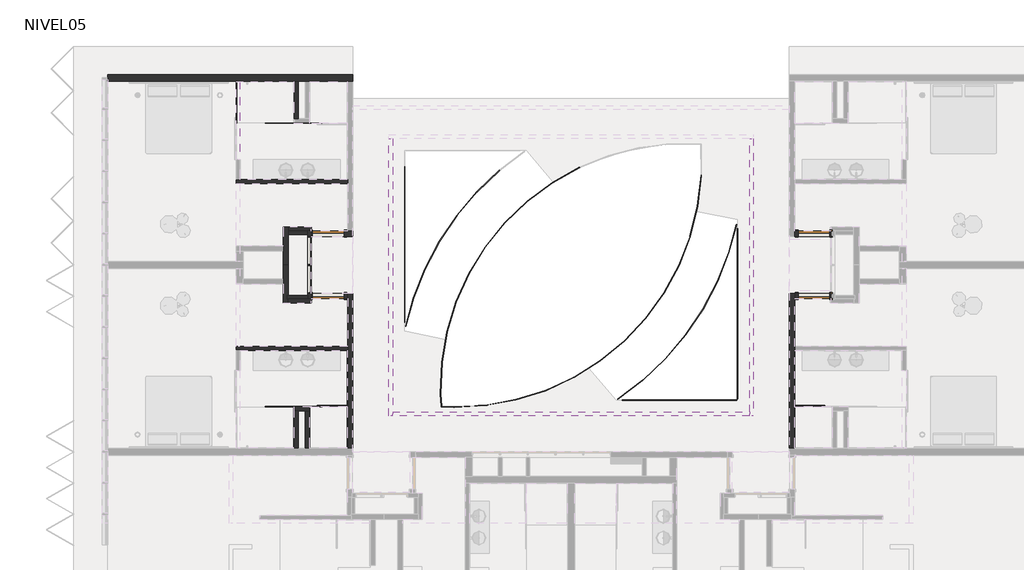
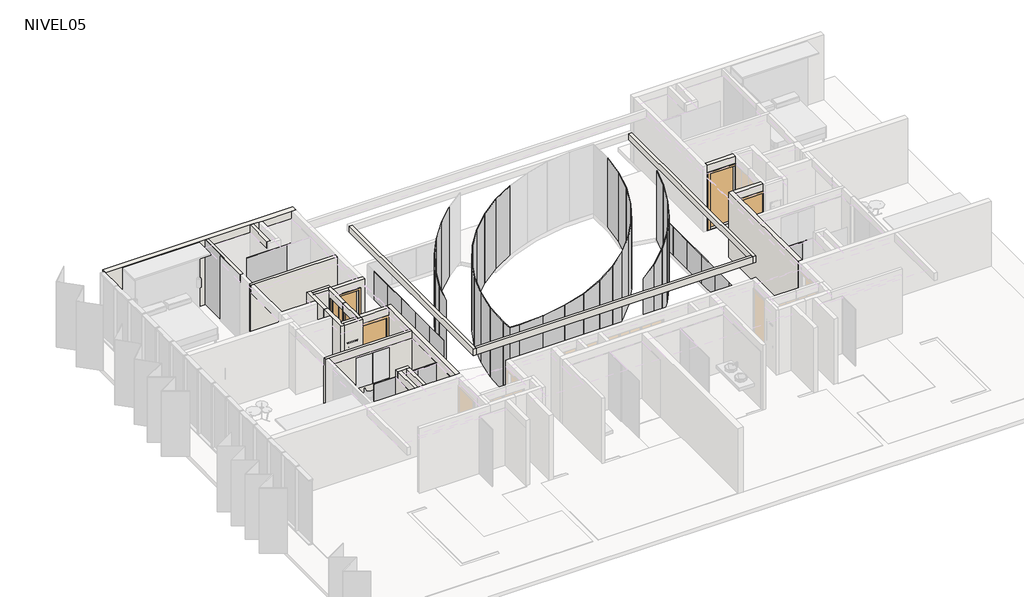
# One storey, part 5 of 8: 56 plates, 31 walls, 6 doors.
"""IFC4 building model written with IfcOpenShell, lengths in millimetres."""

from ifc_helpers import new_model, si_unit, frame, origin, place, context, project, spatial, polyline, outline, extrude, faceted_brep, transform, mapped, element, save
from components import m_single_flush_910x_224_a4f79d59, m_single_flush_910x_224_d199ccfa, puerta_closet_shaft_82_5_x_224cm_10222c01, puerta_closet_shaft_82_5_x_224cm_6ba6ac82, panel_corredera_cr_panel_corredera_1cb9417a, panel_corredera_cr_panel_corredera_99e605cf, system_panel_5ccbd7a3, system_panel_34dc83f9, system_panel_bb99d6db, system_panel_d16f8cfc, system_panel_5bddcc3b, system_panel_8f9a12f6, system_panel_c363a63a, system_panel_ba3bad07, system_panel_cr_shower_c0953742, system_panel_cr_shower_402713e2, system_panel_cr_shower_685ec66b

model = new_model("IFC4")

# Units and contexts
model_context = context("Model", 3, world=origin())
ifc_project = project(units=[si_unit("LENGTHUNIT", "METRE", prefix="MILLI")], contexts=[model_context])

# Site, building, storey
site = spatial("IfcSite", under=ifc_project)
building = spatial("IfcBuilding", under=site)
storey = spatial("IfcBuildingStorey", under=building, Name="NIVEL05", Elevation=10660.0)

# Doors
placement = place(None, origin())
m_single_flush_910x_224_shape = m_single_flush_910x_224_a4f79d59(model_context)
element("IfcDoor", 1, ObjectType="M_Single-Flush : 910x 224", at=placement, inside=storey, context=model_context, shape_type="MappedRepresentation", body=[
    mapped(m_single_flush_910x_224_shape, transform((-14191.0934748, 6033.9139241, 10660.0), x_axis=(1.0, 0.0, 0.0), y_axis=(0.0, 1.0, 0.0), z_axis=(0.0, 0.0, 1.0))),
])
element("IfcDoor", 2, ObjectType="M_Single-Flush : 910x 224", at=placement, inside=storey, context=model_context, shape_type="MappedRepresentation", body=[
    mapped(m_single_flush_910x_224_shape, transform((-176.0934748, 4233.9139241, 10660.0), x_axis=(-1.0, 0.0, 0.0), y_axis=(0.0, -1.0, 0.0), z_axis=(0.0, 0.0, 1.0))),
])
m_single_flush_910x_224_2_shape = m_single_flush_910x_224_d199ccfa(model_context)
element("IfcDoor", 3, ObjectType="M_Single-Flush : 910x 224", at=placement, inside=storey, context=model_context, shape_type="MappedRepresentation", body=[
    mapped(m_single_flush_910x_224_2_shape, transform((-176.0934748, 6033.9139241, 10660.0), x_axis=(-1.0, 0.0, 0.0), y_axis=(0.0, -1.0, 0.0), z_axis=(0.0, 0.0, 1.0))),
])
element("IfcDoor", 4, ObjectType="M_Single-Flush : 910x 224", at=placement, inside=storey, context=model_context, shape_type="MappedRepresentation", body=[
    mapped(m_single_flush_910x_224_2_shape, transform((-14191.0934748, 4233.9139241, 10660.0), x_axis=(1.0, 0.0, 0.0), y_axis=(0.0, 1.0, 0.0), z_axis=(0.0, 0.0, 1.0))),
])
puerta_closet_shaft_82_5_x_224cm_shape = puerta_closet_shaft_82_5_x_224cm_10222c01(model_context)
element("IfcDoor", 5, ObjectType="PUERTA CLOSET SHAFT : 82.5 x 224cm", at=placement, inside=storey, context=model_context, shape_type="MappedRepresentation", body=[
    mapped(puerta_closet_shaft_82_5_x_224cm_shape, transform((-14728.5934748, 4404.8823532, 10660.0), x_axis=(0.0, -1.0, 0.0), y_axis=(1.0, 0.0, 0.0), z_axis=(0.0, 0.0, 1.0))),
])
puerta_closet_shaft_82_5_x_224cm_2_shape = puerta_closet_shaft_82_5_x_224cm_6ba6ac82(model_context)
element("IfcDoor", 6, ObjectType="PUERTA CLOSET SHAFT : 82.5 x 224cm", at=placement, inside=storey, context=model_context, shape_type="MappedRepresentation", body=[
    mapped(puerta_closet_shaft_82_5_x_224cm_2_shape, transform((-14728.5934748, 5862.9454949, 10660.0), x_axis=(0.0, 1.0, 0.0), y_axis=(-1.0, 0.0, 0.0), z_axis=(0.0, 0.0, 1.0))),
])

# Plates
panel_corredera_cr_panel_corredera_shape = panel_corredera_cr_panel_corredera_1cb9417a(model_context)
element("IfcPlate", 7, ObjectType="PANEL CORREDERA : CR_PANEL CORREDERA", at=placement, inside=storey, context=model_context, shape_type="MappedRepresentation", body=[
    mapped(panel_corredera_cr_panel_corredera_shape, transform((-13994.9268082, 1033.9139241, 10660.0), x_axis=(-1.0, 0.0, 0.0), y_axis=(0.0, -1.0, 0.0), z_axis=(0.0, 0.0, 1.0))),
])
panel_corredera_cr_panel_corredera_2_shape = panel_corredera_cr_panel_corredera_99e605cf(model_context)
element("IfcPlate", 8, ObjectType="PANEL CORREDERA : CR_PANEL CORREDERA", at=placement, inside=storey, context=model_context, shape_type="MappedRepresentation", body=[
    mapped(panel_corredera_cr_panel_corredera_2_shape, transform((-372.2601415, 1033.9139241, 10660.0), x_axis=(1.0, 0.0, 0.0), y_axis=(0.0, 1.0, 0.0), z_axis=(0.0, 0.0, 1.0))),
])
system_panel_shape = system_panel_5ccbd7a3(model_context)
element("IfcPlate", 9, ObjectType="System Panel : CR-BARANDA", at=placement, inside=storey, context=model_context, shape_type="MappedRepresentation", body=[
    mapped(system_panel_shape, transform((-2383.5934748, 5738.757085, 10660.0), x_axis=(0.0, -1.0, 0.0), y_axis=(1.0, 0.0, 0.0), z_axis=(0.0, 0.0, 1.0))),
])
element("IfcPlate", 10, ObjectType="System Panel : CR-BARANDA", at=placement, inside=storey, context=model_context, shape_type="MappedRepresentation", body=[
    mapped(system_panel_shape, transform((-2859.843475, 1233.9139241, 10660.0), x_axis=(-1.0, 0.0, 0.0), y_axis=(0.0, -1.0, 0.0), z_axis=(0.0, 0.0, 1.0))),
])
element("IfcPlate", 11, ObjectType="System Panel : CR-BARANDA", at=placement, inside=storey, context=model_context, shape_type="MappedRepresentation", body=[
    mapped(system_panel_shape, transform((-11983.5934748, 3929.0707631, 10660.0), x_axis=(0.0, 1.0, 0.0), y_axis=(-1.0, 0.0, 0.0), z_axis=(0.0, 0.0, 1.0))),
])
element("IfcPlate", 12, ObjectType="System Panel : CR-BARANDA", at=placement, inside=storey, context=model_context, shape_type="MappedRepresentation", body=[
    mapped(system_panel_shape, transform((-3759.8434752, 1233.9139241, 10660.0), x_axis=(-1.0, 0.0, 0.0), y_axis=(0.0, -1.0, 0.0), z_axis=(0.0, 0.0, 1.0))),
])
element("IfcPlate", 13, ObjectType="System Panel : CR-BARANDA", at=placement, inside=storey, context=model_context, shape_type="MappedRepresentation", body=[
    mapped(system_panel_shape, transform((-4659.8434752, 1233.9139241, 10660.0), x_axis=(-1.0, 0.0, 0.0), y_axis=(0.0, -1.0, 0.0), z_axis=(0.0, 0.0, 1.0))),
])
element("IfcPlate", 14, ObjectType="System Panel : CR-BARANDA", at=placement, inside=storey, context=model_context, shape_type="MappedRepresentation", body=[
    mapped(system_panel_shape, transform((-2383.5934748, 4838.7570848, 10660.0), x_axis=(0.0, -1.0, 0.0), y_axis=(1.0, 0.0, 0.0), z_axis=(0.0, 0.0, 1.0))),
])
element("IfcPlate", 15, ObjectType="System Panel : CR-BARANDA", at=placement, inside=storey, context=model_context, shape_type="MappedRepresentation", body=[
    mapped(system_panel_shape, transform((-2383.5934748, 3938.7570848, 10660.0), x_axis=(0.0, -1.0, 0.0), y_axis=(1.0, 0.0, 0.0), z_axis=(0.0, 0.0, 1.0))),
])
element("IfcPlate", 16, ObjectType="System Panel : CR-BARANDA", at=placement, inside=storey, context=model_context, shape_type="MappedRepresentation", body=[
    mapped(system_panel_shape, transform((-2383.5934748, 3038.7570848, 10660.0), x_axis=(0.0, -1.0, 0.0), y_axis=(1.0, 0.0, 0.0), z_axis=(0.0, 0.0, 1.0))),
])
element("IfcPlate", 17, ObjectType="System Panel : CR-BARANDA", at=placement, inside=storey, context=model_context, shape_type="MappedRepresentation", body=[
    mapped(system_panel_shape, transform((-2383.5934748, 2138.7570848, 10660.0), x_axis=(0.0, -1.0, 0.0), y_axis=(1.0, 0.0, 0.0), z_axis=(0.0, 0.0, 1.0))),
])
element("IfcPlate", 18, ObjectType="System Panel : CR-BARANDA", at=placement, inside=storey, context=model_context, shape_type="MappedRepresentation", body=[
    mapped(system_panel_shape, transform((-11983.5934748, 4829.0707633, 10660.0), x_axis=(0.0, 1.0, 0.0), y_axis=(-1.0, 0.0, 0.0), z_axis=(0.0, 0.0, 1.0))),
])
element("IfcPlate", 19, ObjectType="System Panel : CR-BARANDA", at=placement, inside=storey, context=model_context, shape_type="MappedRepresentation", body=[
    mapped(system_panel_shape, transform((-11983.5934748, 5729.0707633, 10660.0), x_axis=(0.0, 1.0, 0.0), y_axis=(-1.0, 0.0, 0.0), z_axis=(0.0, 0.0, 1.0))),
])
element("IfcPlate", 20, ObjectType="System Panel : CR-BARANDA", at=placement, inside=storey, context=model_context, shape_type="MappedRepresentation", body=[
    mapped(system_panel_shape, transform((-11983.5934748, 6629.0707633, 10660.0), x_axis=(0.0, 1.0, 0.0), y_axis=(-1.0, 0.0, 0.0), z_axis=(0.0, 0.0, 1.0))),
])
element("IfcPlate", 21, ObjectType="System Panel : CR-BARANDA", at=placement, inside=storey, context=model_context, shape_type="MappedRepresentation", body=[
    mapped(system_panel_shape, transform((-11983.5934748, 7529.0707633, 10660.0), x_axis=(0.0, 1.0, 0.0), y_axis=(-1.0, 0.0, 0.0), z_axis=(0.0, 0.0, 1.0))),
])
system_panel_2_shape = system_panel_34dc83f9(model_context)
element("IfcPlate", 22, ObjectType="System Panel : CR-BARANDA", at=placement, inside=storey, context=model_context, shape_type="MappedRepresentation", body=[
    mapped(system_panel_2_shape, transform((-5412.343475, 1233.9139241, 10660.0), x_axis=(-1.0, 0.0, 0.0), y_axis=(0.0, -1.0, 0.0), z_axis=(0.0, 0.0, 1.0))),
])
system_panel_3_shape = system_panel_bb99d6db(model_context)
element("IfcPlate", 23, ObjectType="System Panel : CR-BARANDA", at=placement, inside=storey, context=model_context, shape_type="MappedRepresentation", body=[
    mapped(system_panel_3_shape, transform((-2383.5934748, 1478.757085, 10660.0), x_axis=(0.0, -1.0, 0.0), y_axis=(1.0, 0.0, 0.0), z_axis=(0.0, 0.0, 1.0))),
])
system_panel_4_shape = system_panel_d16f8cfc(model_context)
element("IfcPlate", 24, ObjectType="System Panel : CR-BARANDA", at=placement, inside=storey, context=model_context, shape_type="MappedRepresentation", body=[
    mapped(system_panel_4_shape, transform((-7331.2063026, 7728.1154532, 10660.0), x_axis=(-0.8730074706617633, -0.4877068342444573, 0.0), y_axis=(0.4877068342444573, -0.8730074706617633, 0.0), z_axis=(0.0, 0.0, 1.0))),
])
element("IfcPlate", 25, ObjectType="System Panel : CR-BARANDA", at=placement, inside=storey, context=model_context, shape_type="MappedRepresentation", body=[
    mapped(system_panel_4_shape, transform((-8085.741745, 7240.9048287, 10660.0), x_axis=(-0.8037379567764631, -0.5949834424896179, 0.0), y_axis=(0.5949834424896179, -0.8037379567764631, 0.0), z_axis=(0.0, 0.0, 1.0))),
])
element("IfcPlate", 26, ObjectType="System Panel : CR-BARANDA", at=placement, inside=storey, context=model_context, shape_type="MappedRepresentation", body=[
    mapped(system_panel_4_shape, transform((-8772.0368429, 6661.5112103, 10660.0), x_axis=(-0.7213622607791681, -0.6925579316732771, 0.0), y_axis=(0.6925579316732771, -0.7213622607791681, 0.0), z_axis=(0.0, 0.0, 1.0))),
])
element("IfcPlate", 27, ObjectType="System Panel : CR-BARANDA", at=placement, inside=storey, context=model_context, shape_type="MappedRepresentation", body=[
    mapped(system_panel_4_shape, transform((-9378.9005004, 5999.3825011, 10660.0), x_axis=(-0.6272236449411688, -0.7788391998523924, 0.0), y_axis=(0.7788391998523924, -0.6272236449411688, 0.0), z_axis=(0.0, 0.0, 1.0))),
])
element("IfcPlate", 28, ObjectType="System Panel : CR-BARANDA", at=placement, inside=storey, context=model_context, shape_type="MappedRepresentation", body=[
    mapped(system_panel_4_shape, transform((-9896.4368735, 5265.3157269, 10660.0), x_axis=(-0.5228571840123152, -0.8524202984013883, 0.0), y_axis=(0.8524202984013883, -0.5228571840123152, 0.0), z_axis=(0.0, 0.0, 1.0))),
])
element("IfcPlate", 29, ObjectType="System Panel : CR-BARANDA", at=placement, inside=storey, context=model_context, shape_type="MappedRepresentation", body=[
    mapped(system_panel_4_shape, transform((-10316.2067363, 4471.2809741, 10660.0), x_axis=(-0.40996473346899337, -0.9121013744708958, 0.0), y_axis=(0.9121013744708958, -0.40996473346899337, 0.0), z_axis=(0.0, 0.0, 1.0))),
])
element("IfcPlate", 30, ObjectType="System Panel : CR-BARANDA", at=placement, inside=storey, context=model_context, shape_type="MappedRepresentation", body=[
    mapped(system_panel_4_shape, transform((-10631.3650965, 3630.2261992, 10660.0), x_axis=(-0.2903871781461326, -0.9569092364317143, 0.0), y_axis=(0.9569092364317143, -0.2903871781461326, 0.0), z_axis=(0.0, 0.0, 1.0))),
])
element("IfcPlate", 31, ObjectType="System Panel : CR-BARANDA", at=placement, inside=storey, context=model_context, shape_type="MappedRepresentation", body=[
    mapped(system_panel_4_shape, transform((-10836.7728129, 2755.8660923, 10660.0), x_axis=(-0.16607441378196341, -0.9861132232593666, 0.0), y_axis=(0.9861132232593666, -0.16607441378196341, 0.0), z_axis=(0.0, 0.0, 1.0))),
])
element("IfcPlate", 32, ObjectType="System Panel : CR-BARANDA", at=placement, inside=storey, context=model_context, shape_type="MappedRepresentation", body=[
    mapped(system_panel_4_shape, transform((-10929.0803971, 1862.4584383, 10660.0), x_axis=(-0.03905355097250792, -0.9992371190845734, 0.0), y_axis=(0.9992371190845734, -0.03905355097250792, 0.0), z_axis=(0.0, 0.0, 1.0))),
])
system_panel_5_shape = system_panel_5bddcc3b(model_context)
element("IfcPlate", 33, ObjectType="System Panel : CR-BARANDA", at=placement, inside=storey, context=model_context, shape_type="MappedRepresentation", body=[
    mapped(system_panel_5_shape, transform((-10937.3624941, 1230.0346436, 10660.0), x_axis=(0.05077508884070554, -0.9987101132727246, 0.0), y_axis=(0.9987101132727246, 0.05077508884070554, 0.0), z_axis=(0.0, 0.0, 1.0))),
])
system_panel_6_shape = system_panel_8f9a12f6(model_context)
element("IfcPlate", 34, ObjectType="System Panel : CR-BARANDA", at=placement, inside=storey, context=model_context, shape_type="MappedRepresentation", body=[
    mapped(system_panel_6_shape, transform((-5476.4920391, 1528.1257546, 10660.0), x_axis=(0.7955573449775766, 0.6058782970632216, 0.0), y_axis=(-0.6058782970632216, 0.7955573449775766, 0.0), z_axis=(0.0, 0.0, 1.0))),
])
element("IfcPlate", 35, ObjectType="System Panel : CR-BARANDA", at=placement, inside=storey, context=model_context, shape_type="MappedRepresentation", body=[
    mapped(system_panel_4_shape, transform((-9573.0942482, 7558.7054405, 10660.0), x_axis=(-0.7250107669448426, -0.6887375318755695, 0.0), y_axis=(0.6887375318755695, -0.7250107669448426, 0.0), z_axis=(0.0, 0.0, 1.0))),
])
element("IfcPlate", 36, ObjectType="System Panel : CR-BARANDA", at=placement, inside=storey, context=model_context, shape_type="MappedRepresentation", body=[
    mapped(system_panel_4_shape, transform((-10189.892753, 6905.1394698, 10660.0), x_axis=(-0.6456525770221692, -0.7636312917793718, 0.0), y_axis=(0.7636312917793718, -0.6456525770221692, 0.0), z_axis=(0.0, 0.0, 1.0))),
])
element("IfcPlate", 37, ObjectType="System Panel : CR-BARANDA", at=placement, inside=storey, context=model_context, shape_type="MappedRepresentation", body=[
    mapped(system_panel_4_shape, transform((-10731.8094423, 6188.2606967, 10660.0), x_axis=(-0.558606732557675, -0.8294326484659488, 0.0), y_axis=(0.8294326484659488, -0.558606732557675, 0.0), z_axis=(0.0, 0.0, 1.0))),
])
element("IfcPlate", 38, ObjectType="System Panel : CR-BARANDA", at=placement, inside=storey, context=model_context, shape_type="MappedRepresentation", body=[
    mapped(system_panel_4_shape, transform((-11192.3918238, 5416.6048516, 10660.0), x_axis=(-0.4649096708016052, -0.8853581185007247, 0.0), y_axis=(0.8853581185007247, -0.4649096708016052, 0.0), z_axis=(0.0, 0.0, 1.0))),
])
element("IfcPlate", 39, ObjectType="System Panel : CR-BARANDA", at=placement, inside=storey, context=model_context, shape_type="MappedRepresentation", body=[
    mapped(system_panel_4_shape, transform((-11566.1558363, 4599.3598844, 10660.0), x_axis=(-0.36567702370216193, -0.9307418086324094, 0.0), y_axis=(0.9307418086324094, -0.36567702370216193, 0.0), z_axis=(0.0, 0.0, 1.0))),
])
element("IfcPlate", 40, ObjectType="System Panel : CR-BARANDA", at=placement, inside=storey, context=model_context, shape_type="MappedRepresentation", body=[
    mapped(system_panel_4_shape, transform((-3479.1267798, 7273.6025956, 10660.0), x_axis=(-0.11465787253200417, -0.9934050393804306, 0.0), y_axis=(0.9934050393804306, -0.11465787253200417, 0.0), z_axis=(0.0, 0.0, 1.0))),
])
element("IfcPlate", 41, ObjectType="System Panel : CR-BARANDA", at=placement, inside=storey, context=model_context, shape_type="MappedRepresentation", body=[
    mapped(system_panel_4_shape, transform((-3638.8664144, 6389.7580529, 10660.0), x_axis=(-0.2403190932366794, -0.9706939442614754, 0.0), y_axis=(0.9706939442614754, -0.2403190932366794, 0.0), z_axis=(0.0, 0.0, 1.0))),
])
element("IfcPlate", 42, ObjectType="System Panel : CR-BARANDA", at=placement, inside=storey, context=model_context, shape_type="MappedRepresentation", body=[
    mapped(system_panel_4_shape, transform((-3909.9377002, 5533.4763911, 10660.0), x_axis=(-0.3620615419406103, -0.9321541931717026, 0.0), y_axis=(0.9321541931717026, -0.3620615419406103, 0.0), z_axis=(0.0, 0.0, 1.0))),
])
element("IfcPlate", 43, ObjectType="System Panel : CR-BARANDA", at=placement, inside=storey, context=model_context, shape_type="MappedRepresentation", body=[
    mapped(system_panel_4_shape, transform((-4287.9204035, 4718.720598, 10660.0), x_axis=(-0.4779000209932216, -0.87841423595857, 0.0), y_axis=(0.87841423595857, -0.4779000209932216, 0.0), z_axis=(0.0, 0.0, 1.0))),
])
element("IfcPlate", 44, ObjectType="System Panel : CR-BARANDA", at=placement, inside=storey, context=model_context, shape_type="MappedRepresentation", body=[
    mapped(system_panel_4_shape, transform((-4766.6509357, 3958.7765185, 10660.0), x_axis=(-0.5859456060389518, -0.8103503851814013, 0.0), y_axis=(0.8103503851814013, -0.5859456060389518, 0.0), z_axis=(0.0, 0.0, 1.0))),
])
element("IfcPlate", 45, ObjectType="System Panel : CR-BARANDA", at=placement, inside=storey, context=model_context, shape_type="MappedRepresentation", body=[
    mapped(system_panel_4_shape, transform((-5338.32286, 3266.0362082, 10660.0), x_axis=(-0.6844364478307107, -0.7290725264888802, 0.0), y_axis=(0.7290725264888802, -0.6844364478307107, 0.0), z_axis=(0.0, 0.0, 1.0))),
])
element("IfcPlate", 46, ObjectType="System Panel : CR-BARANDA", at=placement, inside=storey, context=model_context, shape_type="MappedRepresentation", body=[
    mapped(system_panel_4_shape, transform((-5993.6141873, 2651.7958622, 10660.0), x_axis=(-0.7717665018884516, -0.6359060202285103, 0.0), y_axis=(0.6359060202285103, -0.7717665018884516, 0.0), z_axis=(0.0, 0.0, 1.0))),
])
element("IfcPlate", 47, ObjectType="System Panel : CR-BARANDA", at=placement, inside=storey, context=model_context, shape_type="MappedRepresentation", body=[
    mapped(system_panel_4_shape, transform((-6721.8393861, 2126.0716129, 10660.0), x_axis=(-0.8465117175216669, -0.5323700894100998, 0.0), y_axis=(0.5323700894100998, -0.8465117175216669, 0.0), z_axis=(0.0, 0.0, 1.0))),
])
element("IfcPlate", 48, ObjectType="System Panel : CR-BARANDA", at=placement, inside=storey, context=model_context, shape_type="MappedRepresentation", body=[
    mapped(system_panel_4_shape, transform((-7511.1236256, 1697.4362017, 10660.0), x_axis=(-0.9074532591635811, -0.42015304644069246, 0.0), y_axis=(0.42015304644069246, -0.9074532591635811, 0.0), z_axis=(0.0, 0.0, 1.0))),
])
element("IfcPlate", 49, ObjectType="System Panel : CR-BARANDA", at=placement, inside=storey, context=model_context, shape_type="MappedRepresentation", body=[
    mapped(system_panel_4_shape, transform((-8348.5964138, 1372.8791877, 10660.0), x_axis=(-0.9535973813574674, -0.301084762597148, 0.0), y_axis=(0.301084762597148, -0.9535973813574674, 0.0), z_axis=(0.0, 0.0, 1.0))),
])
element("IfcPlate", 50, ObjectType="System Panel : CR-BARANDA", at=placement, inside=storey, context=model_context, shape_type="MappedRepresentation", body=[
    mapped(system_panel_4_shape, transform((-9220.6014704, 1157.6929714, 10660.0), x_axis=(-0.9841916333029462, -0.1771068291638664, 0.0), y_axis=(0.1771068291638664, -0.9841916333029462, 0.0), z_axis=(0.0, 0.0, 1.0))),
])
element("IfcPlate", 51, ObjectType="System Panel : CR-BARANDA", at=placement, inside=storey, context=model_context, shape_type="MappedRepresentation", body=[
    mapped(system_panel_4_shape, transform((-10112.9194133, 1055.3864947, 10660.0), x_axis=(-0.9987371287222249, -0.0502408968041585, 0.0), y_axis=(0.0502408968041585, -0.9987371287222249, 0.0), z_axis=(0.0, 0.0, 1.0))),
])
element("IfcPlate", 52, ObjectType="System Panel : CR-BARANDA", at=placement, inside=storey, context=model_context, shape_type="MappedRepresentation", body=[
    mapped(system_panel_4_shape, transform((-4792.328012, 2110.7993037, 10660.0), x_axis=(0.724807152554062, 0.6889518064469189, 0.0), y_axis=(-0.6889518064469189, 0.724807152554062, 0.0), z_axis=(0.0, 0.0, 1.0))),
])
element("IfcPlate", 53, ObjectType="System Panel : CR-BARANDA", at=placement, inside=storey, context=model_context, shape_type="MappedRepresentation", body=[
    mapped(system_panel_4_shape, transform((-4175.7227206, 2764.5475642, 10660.0), x_axis=(0.6454268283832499, 0.7638221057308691, 0.0), y_axis=(-0.7638221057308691, 0.6454268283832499, 0.0), z_axis=(0.0, 0.0, 1.0))),
])
element("IfcPlate", 54, ObjectType="System Panel : CR-BARANDA", at=placement, inside=storey, context=model_context, shape_type="MappedRepresentation", body=[
    mapped(system_panel_4_shape, transform((-3634.0179559, 3481.5864902, 10660.0), x_axis=(0.5583615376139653, 0.8295977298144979, 0.0), y_axis=(-0.8295977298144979, 0.5583615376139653, 0.0), z_axis=(0.0, 0.0, 1.0))),
])
element("IfcPlate", 55, ObjectType="System Panel : CR-BARANDA", at=placement, inside=storey, context=model_context, shape_type="MappedRepresentation", body=[
    mapped(system_panel_4_shape, transform((-3173.6636869, 4253.3784444, 10660.0), x_axis=(0.4646479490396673, 0.8854955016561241, 0.0), y_axis=(-0.8854955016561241, 0.4646479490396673, 0.0), z_axis=(0.0, 0.0, 1.0))),
])
element("IfcPlate", 56, ObjectType="System Panel : CR-BARANDA", at=placement, inside=storey, context=model_context, shape_type="MappedRepresentation", body=[
    mapped(system_panel_4_shape, transform((-2800.1412587, 5070.7338561, 10660.0), x_axis=(0.36540189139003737, 0.9308498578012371, 0.0), y_axis=(-0.9308498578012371, 0.36540189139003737, 0.0), z_axis=(0.0, 0.0, 1.0))),
])
element("IfcPlate", 57, ObjectType="System Panel : CR-BARANDA", at=placement, inside=storey, context=model_context, shape_type="MappedRepresentation", body=[
    mapped(system_panel_5_shape, transform((-10745.2108072, 1040.0228218, 10660.0), x_axis=(-0.9992160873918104, 0.039588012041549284, 0.0), y_axis=(-0.039588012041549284, -0.9992160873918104, 0.0), z_axis=(0.0, 0.0, 1.0))),
])
system_panel_7_shape = system_panel_c363a63a(model_context)
element("IfcPlate", 58, ObjectType="System Panel : CR-BARANDA", at=placement, inside=storey, context=model_context, shape_type="MappedRepresentation", body=[
    mapped(system_panel_7_shape, transform((-2523.9277538, 5896.1430611, 10660.0), x_axis=(0.2651295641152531, 0.9642127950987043, 0.0), y_axis=(-0.9642127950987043, 0.2651295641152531, 0.0), z_axis=(0.0, 0.0, 1.0))),
])
system_panel_8_shape = system_panel_ba3bad07(model_context)
element("IfcPlate", 59, ObjectType="System Panel : CR-BARANDA", at=placement, inside=storey, context=model_context, shape_type="MappedRepresentation", body=[
    mapped(system_panel_8_shape, transform((-11842.8761734, 3772.8420443, 10660.0), x_axis=(-0.2652720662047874, -0.9641735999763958, 0.0), y_axis=(0.9641735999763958, -0.2652720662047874, 0.0), z_axis=(0.0, 0.0, 1.0))),
])
system_panel_cr_shower_shape = system_panel_cr_shower_c0953742(model_context)
element("IfcPlate", 60, ObjectType="System Panel : CR-SHOWER", at=placement, inside=storey, context=model_context, shape_type="MappedRepresentation", body=[
    mapped(system_panel_cr_shower_shape, transform((-15178.9268082, 1033.9139241, 10660.0), x_axis=(1.0, 0.0, 0.0), y_axis=(0.0, 1.0, 0.0), z_axis=(0.0, 0.0, 1.0))),
])
system_panel_cr_shower_2_shape = system_panel_cr_shower_402713e2(model_context)
element("IfcPlate", 61, ObjectType="System Panel : CR-SHOWER", at=placement, inside=storey, context=model_context, shape_type="MappedRepresentation", body=[
    mapped(system_panel_cr_shower_2_shape, transform((-15178.9268082, 9233.9139241, 10660.0), x_axis=(1.0, 0.0, 0.0), y_axis=(0.0, 1.0, 0.0), z_axis=(0.0, 0.0, 1.0))),
])
system_panel_cr_shower_3_shape = system_panel_cr_shower_685ec66b(model_context)
element("IfcPlate", 62, ObjectType="System Panel : CR-SHOWER", at=placement, inside=storey, context=model_context, shape_type="MappedRepresentation", body=[
    mapped(system_panel_cr_shower_3_shape, transform((-16848.5934748, 9833.9139241, 10660.0), x_axis=(0.0, 1.0, 0.0), y_axis=(-1.0, 0.0, 0.0), z_axis=(0.0, 0.0, 1.0))),
])

# Walls
element("IfcWall", 63, ObjectType="SCV.TI.A.150.120.212.47.1", at=placement, inside=storey, context=model_context, shape_type="Brep", body=[
    faceted_brep([(-13483.5934748, -166.0860759, 10640.0), (-13483.5934748, 4308.9139241, 10640.0), (-13483.5934748, 4308.9139241, 13210.0), (-13483.5934748, -166.0860759, 13210.0), (-13633.5934748, -166.0860759, 10640.0), (-13633.5934748, -166.0860759, 13210.0), (-13633.5934748, 2673.9139241, 13210.0), (-13633.5934748, 2783.9139241, 13210.0), (-13633.5934748, 4158.9139241, 13210.0), (-13633.5934748, 4308.9139241, 13210.0), (-13633.5934748, 4308.9139241, 10640.0), (-13633.5934748, 4158.9139241, 10640.0), (-13633.5934748, 2783.9139241, 10640.0), (-13633.5934748, 2673.9139241, 10640.0)], [[[0, 1, 2, 3]], [[4, 5, 6, 7, 8, 9, 10, 11, 12, 13]], [[1, 0, 4, 13, 12, 11, 10]], [[3, 2, 9, 8, 7, 6, 5]], [[2, 1, 10, 9]], [[0, 3, 5, 4]]]),
])
element("IfcWall", 64, ObjectType="SCV.TI.A.150.120.212.47.1", at=placement, inside=storey, context=model_context, shape_type="Brep", body=[
    faceted_brep([(-733.5934748, -166.0860759, 10640.0), (-733.5934748, 2673.9139241, 10640.0), (-733.5934748, 2783.9139241, 10640.0), (-733.5934748, 4158.9139241, 10640.0), (-733.5934748, 4308.9139241, 10640.0), (-733.5934748, 4308.9139241, 13210.0), (-733.5934748, 4158.9139241, 13210.0), (-733.5934748, 2783.9139241, 13210.0), (-733.5934748, 2673.9139241, 13210.0), (-733.5934748, -166.0860759, 13210.0), (-883.5934748, -166.0860759, 10640.0), (-883.5934748, -166.0860759, 13210.0), (-883.5934748, 4308.9139241, 13210.0), (-883.5934748, 4308.9139241, 10640.0)], [[[0, 1, 2, 3, 4, 5, 6, 7, 8, 9]], [[10, 11, 12, 13]], [[4, 3, 2, 1, 0, 10, 13]], [[9, 8, 7, 6, 5, 12, 11]], [[5, 4, 13, 12]], [[0, 9, 11, 10]]]),
])
element("IfcWall", 65, ObjectType="SCV.TI.A.110.090.143.47.1", at=placement, inside=storey, context=model_context, shape_type="Brep", body=[
    faceted_brep([(-14783.5934748, 6123.9139241, 10640.0), (-14783.5934748, 6013.9139241, 10640.0), (-14783.5934748, 5128.3504322, 10640.0), (-14783.5934748, 5128.3504322, 13210.0), (-14783.5934748, 6013.9139241, 13210.0), (-14783.5934748, 6123.9139241, 13210.0), (-14783.5934748, 5958.9139241, 12900.0), (-14783.5934748, 5133.9139241, 12900.0), (-14783.5934748, 5133.9139241, 10660.0), (-14783.5934748, 5958.9139241, 10660.0), (-14673.5934748, 5128.3504322, 10640.0), (-14673.5934748, 5958.9139241, 10640.0), (-14673.5934748, 6108.9139241, 10640.0), (-14673.5934748, 6123.9139241, 10640.0), (-14673.5934748, 6123.9139241, 13210.0), (-14673.5934748, 6108.9139241, 13210.0), (-14673.5934748, 5958.9139241, 13210.0), (-14673.5934748, 5128.3504322, 13210.0), (-14673.5934748, 5133.9139241, 12900.0), (-14673.5934748, 5958.9139241, 12900.0), (-14673.5934748, 5958.9139241, 10660.0), (-14673.5934748, 5133.9139241, 10660.0)], [[[0, 1, 2, 3, 4, 5], [6, 7, 8, 9]], [[10, 11, 12, 13, 14, 15, 16, 17], [18, 19, 20, 21]], [[2, 1, 0, 13, 12, 11, 10]], [[3, 2, 10, 17]], [[5, 4, 3, 17, 16, 15, 14]], [[6, 19, 18, 7]], [[8, 21, 20, 9]], [[19, 6, 9, 20]], [[21, 8, 7, 18]], [[0, 5, 14, 13]]]),
])
element("IfcWall", 66, ObjectType="SCV.TI.A.150.120.212.47.1", at=placement, inside=storey, context=model_context, shape_type="Brep", body=[
    faceted_brep([(-13483.5934748, 6108.9139241, 10640.0), (-13633.5934748, 6108.9139241, 10640.0), (-14673.5934748, 6108.9139241, 10640.0), (-14673.5934748, 6108.9139241, 13210.0), (-13633.5934748, 6108.9139241, 13210.0), (-13483.5934748, 6108.9139241, 13210.0), (-14648.5934748, 6108.9139241, 10660.0), (-13733.5934748, 6108.9139241, 10660.0), (-13733.5934748, 6108.9139241, 12860.0), (-14648.5934748, 6108.9139241, 12860.0), (-14673.5934748, 5958.9139241, 10640.0), (-13483.5934748, 5958.9139241, 10640.0), (-13483.5934748, 5958.9139241, 13210.0), (-14673.5934748, 5958.9139241, 13210.0), (-14673.5934748, 5958.9139241, 12900.0), (-14673.5934748, 5958.9139241, 10660.0), (-13733.5934748, 5958.9139241, 10660.0), (-14648.5934748, 5958.9139241, 10660.0), (-14648.5934748, 5958.9139241, 12860.0), (-13733.5934748, 5958.9139241, 12860.0)], [[[0, 1, 2, 3, 4, 5], [6, 7, 8, 9]], [[10, 11, 12, 13, 14, 15], [16, 17, 18, 19]], [[2, 1, 0, 11, 10]], [[5, 4, 3, 13, 12]], [[6, 17, 16, 7]], [[8, 19, 18, 9]], [[17, 6, 9, 18]], [[19, 8, 7, 16]], [[0, 5, 12, 11]], [[3, 2, 10, 15, 14, 13]]]),
])
element("IfcWall", 67, ObjectType="SCV.TI.A.110.090.143.47.1", at=placement, inside=storey, context=model_context, shape_type="Brep", body=[
    faceted_brep([(-13633.5934748, 7593.9139241, 10640.0), (-16738.5934748, 7593.9139241, 10640.0), (-16848.5934748, 7593.9139241, 10640.0), (-16848.5934748, 7593.9139241, 13210.0), (-16738.5934748, 7593.9139241, 13210.0), (-13633.5934748, 7593.9139241, 13210.0), (-13633.5934748, 7483.9139241, 10640.0), (-13633.5934748, 7483.9139241, 13210.0), (-16738.5934748, 7483.9139241, 13210.0), (-16848.5934748, 7483.9139241, 13210.0), (-16848.5934748, 7483.9139241, 12910.0), (-16848.5934748, 7483.9139241, 10640.0)], [[[0, 1, 2, 3, 4, 5]], [[6, 7, 8, 9, 10, 11]], [[2, 1, 0, 6, 11]], [[5, 4, 3, 9, 8, 7]], [[0, 5, 7, 6]], [[2, 11, 10, 9, 3]]]),
])
element("IfcWall", 68, ObjectType="SCV.TI.A.110.090.143.47.1", at=placement, inside=storey, context=model_context, shape_type="Brep", body=[
    faceted_brep([(-14673.5934748, 6233.9139241, 10640.0), (-15343.5934748, 6233.9139241, 10640.0), (-15343.5934748, 6233.9139241, 13210.0), (-14673.5934748, 6233.9139241, 13210.0), (-14673.5934748, 6123.9139241, 10640.0), (-14673.5934748, 6123.9139241, 13210.0), (-14783.5934748, 6123.9139241, 13210.0), (-15343.5934748, 6123.9139241, 13210.0), (-15343.5934748, 6123.9139241, 10640.0), (-14783.5934748, 6123.9139241, 10640.0)], [[[0, 1, 2, 3]], [[4, 5, 6, 7, 8, 9]], [[1, 0, 4, 9, 8]], [[3, 2, 7, 6, 5]], [[0, 3, 5, 4]], [[2, 1, 8, 7]]]),
])
element("IfcWall", 69, ObjectType="SCV.TI.A.120.120.122.46.2", at=placement, inside=storey, context=model_context, shape_type="SweptSolid", body=[
    extrude(outline(polyline([(-15173.5934748, 9353.9139241), (-15173.5934748, 10433.9139241), (-15053.5934748, 10433.9139241), (-15053.5934748, 9353.9139241), (-15173.5934748, 9353.9139241)])), frame((0.0, 0.0, 10640.0), z_axis=(0.0, 0.0, 1.0), x_axis=(1.0, 0.0, 0.0)), (0.0, 0.0, 1.0), 2570.0),
])
element("IfcWall", 70, ObjectType="REV-PORCELANATO_60*60", at=placement, inside=storey, context=model_context, shape_type="Brep", body=[
    faceted_brep([(-13633.5934748, 7603.9139241, 10680.0), (-13643.5934748, 7603.9139241, 10680.0), (-16728.5934748, 7603.9139241, 10680.0), (-16728.5934748, 7603.9139241, 12920.0), (-13643.5934748, 7603.9139241, 12920.0), (-13633.5934748, 7603.9139241, 12920.0), (-13633.5934748, 7593.9139241, 10680.0), (-13633.5934748, 7593.9139241, 12920.0), (-16728.5934748, 7593.9139241, 12920.0), (-16728.5934748, 7593.9139241, 10680.0)], [[[0, 1, 2, 3, 4, 5]], [[6, 7, 8, 9]], [[2, 1, 0, 6, 9]], [[5, 4, 3, 8, 7]], [[0, 5, 7, 6]], [[3, 2, 9, 8]]]),
])
element("IfcWall", 71, ObjectType="SCV.TI.A.110.090.143.47.1 2", at=placement, inside=storey, context=model_context, shape_type="SweptSolid", body=[
    extrude(outline(polyline([(-16848.5934748, 8173.9139241), (-16848.5934748, 10428.9139241), (-16738.5934748, 10428.9139241), (-16738.5934748, 8173.9139241), (-16848.5934748, 8173.9139241)])), frame((0.0, 0.0, 12910.0), z_axis=(0.0, 0.0, 1.0), x_axis=(1.0, 0.0, 0.0)), (0.0, 0.0, 1.0), 300.0),
])
element("IfcWall", 72, ObjectType="SCV.TI.A.110.090.143.47.1 2", at=placement, inside=storey, context=model_context, shape_type="Brep", body=[
    faceted_brep([(-12443.5934748, 773.9139241, 13210.0), (-12443.5934748, 8783.9139241, 13210.0), (-12443.5934748, 8783.9139241, 12965.0), (-12443.5934748, 773.9139241, 12965.0), (-12333.5934748, 8783.9139241, 13210.0), (-12333.5934748, 883.9139241, 13210.0), (-12333.5934748, 773.9139241, 13210.0), (-12333.5934748, 773.9139241, 12965.0), (-12333.5934748, 883.9139241, 12965.0), (-12333.5934748, 8783.9139241, 12965.0)], [[[0, 1, 2, 3]], [[4, 5, 6, 7, 8, 9]], [[1, 0, 6, 5, 4]], [[1, 4, 9, 2]], [[6, 0, 3, 7]], [[3, 2, 9, 8, 7]]]),
])
element("IfcWall", 73, ObjectType="SCV.TI.A.110.090.143.47.1 2", at=placement, inside=storey, context=model_context, shape_type="Brep", body=[
    faceted_brep([(-1923.5934748, 8783.9139241, 13210.0), (-1923.5934748, 773.9139241, 13210.0), (-1923.5934748, 773.9139241, 12965.0), (-1923.5934748, 8783.9139241, 12965.0), (-2033.5934748, 773.9139241, 13210.0), (-2033.5934748, 883.9139241, 13210.0), (-2033.5934748, 8783.9139241, 13210.0), (-2033.5934748, 8783.9139241, 12965.0), (-2033.5934748, 883.9139241, 12965.0), (-2033.5934748, 773.9139241, 12965.0)], [[[0, 1, 2, 3]], [[4, 5, 6, 7, 8, 9]], [[1, 0, 6, 5, 4]], [[6, 0, 3, 7]], [[1, 4, 9, 2]], [[3, 2, 9, 8, 7]]]),
])
element("IfcWall", 74, ObjectType="SCV.TI.A.110.090.143.47.1 2", at=placement, inside=storey, context=model_context, shape_type="SweptSolid", body=[
    extrude(outline(polyline([(-2033.5934748, 773.9139241), (-12333.5934748, 773.9139241), (-12333.5934748, 883.9139241), (-2033.5934748, 883.9139241), (-2033.5934748, 773.9139241)])), frame((0.0, 0.0, 12965.0), z_axis=(0.0, 0.0, 1.0), x_axis=(1.0, 0.0, 0.0)), (0.0, 0.0, 1.0), 245.0),
])
element("IfcWall", 75, ObjectType="SCV.TI.A.110.090.143.47.1", at=placement, inside=storey, context=model_context, shape_type="SweptSolid", body=[
    extrude(outline(polyline([(-15373.5934748, 6123.9139241), (-14783.5934748, 6123.9139241), (-14783.5934748, 6013.9139241), (-15373.5934748, 6013.9139241), (-15373.5934748, 6123.9139241)])), frame((0.0, 0.0, 10640.0), z_axis=(0.0, 0.0, 1.0), x_axis=(1.0, 0.0, 0.0)), (0.0, 0.0, 1.0), 2570.0),
])
element("IfcWall", 76, ObjectType="SCV.TI.A.150.120.212.47.1", at=placement, inside=storey, context=model_context, shape_type="Brep", body=[
    faceted_brep([(-15343.5934748, 5133.9139241, 10640.0), (-15343.5934748, 6123.9139241, 10640.0), (-15343.5934748, 6233.9139241, 10640.0), (-15343.5934748, 6233.9139241, 13210.0), (-15343.5934748, 6123.9139241, 13210.0), (-15343.5934748, 5133.9139241, 13210.0), (-15493.5934748, 5133.9139241, 10640.0), (-15493.5934748, 5133.9139241, 13210.0), (-15493.5934748, 5533.9139241, 13210.0), (-15493.5934748, 5683.9139241, 13210.0), (-15493.5934748, 6233.9139241, 13210.0), (-15493.5934748, 6233.9139241, 10640.0), (-15493.5934748, 5683.9139241, 10640.0), (-15493.5934748, 5533.9139241, 10640.0)], [[[0, 1, 2, 3, 4, 5]], [[6, 7, 8, 9, 10, 11, 12, 13]], [[2, 1, 0, 6, 13, 12, 11]], [[5, 4, 3, 10, 9, 8, 7]], [[0, 5, 7, 6]], [[3, 2, 11, 10]]]),
])
element("IfcWall", 77, ObjectType="SCV.TI.A.150.120.212.47.1", at=placement, inside=storey, context=model_context, shape_type="Brep", body=[
    faceted_brep([(-733.5934748, 5958.9139241, 10640.0), (306.4065252, 5958.9139241, 10640.0), (306.4065252, 5958.9139241, 10660.0), (306.4065252, 5958.9139241, 12900.0), (306.4065252, 5958.9139241, 13210.0), (-733.5934748, 5958.9139241, 13210.0), (281.4065252, 5958.9139241, 10660.0), (-633.5934748, 5958.9139241, 10660.0), (-633.5934748, 5958.9139241, 12860.0), (281.4065252, 5958.9139241, 12860.0), (306.4065252, 6108.9139241, 10640.0), (-733.5934748, 6108.9139241, 10640.0), (-733.5934748, 6108.9139241, 13210.0), (306.4065252, 6108.9139241, 13210.0), (-633.5934748, 6108.9139241, 10660.0), (281.4065252, 6108.9139241, 10660.0), (281.4065252, 6108.9139241, 12860.0), (-633.5934748, 6108.9139241, 12860.0)], [[[0, 1, 2, 3, 4, 5], [6, 7, 8, 9]], [[10, 11, 12, 13], [14, 15, 16, 17]], [[1, 0, 11, 10]], [[5, 4, 13, 12]], [[6, 15, 14, 7]], [[8, 17, 16, 9]], [[15, 6, 9, 16]], [[17, 8, 7, 14]], [[4, 3, 2, 1, 10, 13]], [[0, 5, 12, 11]]]),
])
element("IfcWall", 78, ObjectType="SCV.TI.A.110.090.143.47.1", at=placement, inside=storey, context=model_context, shape_type="Brep", body=[
    faceted_brep([(-14673.5934748, 4143.9139241, 10640.0), (-14673.5934748, 4158.9139241, 10640.0), (-14673.5934748, 4308.9139241, 10640.0), (-14673.5934748, 5139.4774159, 10640.0), (-14673.5934748, 5139.4774159, 10660.0), (-14673.5934748, 4308.9139241, 10660.0), (-14673.5934748, 4308.9139241, 12900.0), (-14673.5934748, 5139.4774159, 12900.0), (-14673.5934748, 5139.4774159, 13210.0), (-14673.5934748, 4308.9139241, 13210.0), (-14673.5934748, 4158.9139241, 13210.0), (-14673.5934748, 4143.9139241, 13210.0), (-14783.5934748, 5139.4774159, 10640.0), (-14783.5934748, 4253.9139241, 10640.0), (-14783.5934748, 4143.9139241, 10640.0), (-14783.5934748, 4143.9139241, 13210.0), (-14783.5934748, 4253.9139241, 13210.0), (-14783.5934748, 5139.4774159, 13210.0), (-14783.5934748, 5139.4774159, 12900.0), (-14783.5934748, 4308.9139241, 12900.0), (-14783.5934748, 4308.9139241, 10660.0), (-14783.5934748, 5139.4774159, 10660.0)], [[[0, 1, 2, 3, 4, 5, 6, 7, 8, 9, 10, 11]], [[12, 13, 14, 15, 16, 17, 18, 19, 20, 21]], [[3, 2, 1, 0, 14, 13, 12]], [[3, 12, 21, 4]], [[17, 8, 7, 18]], [[11, 10, 9, 8, 17, 16, 15]], [[6, 19, 18, 7]], [[20, 5, 4, 21]], [[5, 20, 19, 6]], [[0, 11, 15, 14]]]),
])
element("IfcWall", 79, ObjectType="SCV.TI.A.150.120.212.47.1", at=placement, inside=storey, context=model_context, shape_type="Brep", body=[
    faceted_brep([(-13633.5934748, 4308.9139241, 10640.0), (-14673.5934748, 4308.9139241, 10640.0), (-14673.5934748, 4308.9139241, 10660.0), (-14673.5934748, 4308.9139241, 12900.0), (-14673.5934748, 4308.9139241, 13210.0), (-13633.5934748, 4308.9139241, 13210.0), (-14648.5934748, 4308.9139241, 10660.0), (-13733.5934748, 4308.9139241, 10660.0), (-13733.5934748, 4308.9139241, 12860.0), (-14648.5934748, 4308.9139241, 12860.0), (-14673.5934748, 4158.9139241, 10640.0), (-13633.5934748, 4158.9139241, 10640.0), (-13633.5934748, 4158.9139241, 13210.0), (-14673.5934748, 4158.9139241, 13210.0), (-13733.5934748, 4158.9139241, 10660.0), (-14648.5934748, 4158.9139241, 10660.0), (-14648.5934748, 4158.9139241, 12860.0), (-13733.5934748, 4158.9139241, 12860.0)], [[[0, 1, 2, 3, 4, 5], [6, 7, 8, 9]], [[10, 11, 12, 13], [14, 15, 16, 17]], [[1, 0, 11, 10]], [[5, 4, 13, 12]], [[6, 15, 14, 7]], [[8, 17, 16, 9]], [[15, 6, 9, 16]], [[17, 8, 7, 14]], [[4, 3, 2, 1, 10, 13]], [[0, 5, 12, 11]]]),
])
element("IfcWall", 80, ObjectType="SCV.TI.A.110.090.143.47.1", at=placement, inside=storey, context=model_context, shape_type="Brep", body=[
    faceted_brep([(-13633.5934748, 2783.9139241, 10640.0), (-16848.5934748, 2783.9139241, 10640.0), (-16848.5934748, 2783.9139241, 12910.0), (-16848.5934748, 2783.9139241, 13210.0), (-16738.5934748, 2783.9139241, 13210.0), (-13633.5934748, 2783.9139241, 13210.0), (-13633.5934748, 2673.9139241, 10640.0), (-13633.5934748, 2673.9139241, 13210.0), (-16738.5934748, 2673.9139241, 13210.0), (-16848.5934748, 2673.9139241, 13210.0), (-16848.5934748, 2673.9139241, 10640.0), (-16738.5934748, 2673.9139241, 10640.0)], [[[0, 1, 2, 3, 4, 5]], [[6, 7, 8, 9, 10, 11]], [[1, 0, 6, 11, 10]], [[5, 4, 3, 9, 8, 7]], [[3, 2, 1, 10, 9]], [[0, 5, 7, 6]]]),
])
element("IfcWall", 81, ObjectType="SCV.TI.A.110.090.143.47.1", at=placement, inside=storey, context=model_context, shape_type="Brep", body=[
    faceted_brep([(-14673.5934748, 4143.9139241, 10640.0), (-14783.5934748, 4143.9139241, 10640.0), (-15343.5934748, 4143.9139241, 10640.0), (-15343.5934748, 4143.9139241, 13210.0), (-14783.5934748, 4143.9139241, 13210.0), (-14673.5934748, 4143.9139241, 13210.0), (-14673.5934748, 4033.9139241, 10640.0), (-14673.5934748, 4033.9139241, 13210.0), (-15343.5934748, 4033.9139241, 13210.0), (-15343.5934748, 4033.9139241, 10640.0)], [[[0, 1, 2, 3, 4, 5]], [[6, 7, 8, 9]], [[2, 1, 0, 6, 9]], [[5, 4, 3, 8, 7]], [[0, 5, 7, 6]], [[3, 2, 9, 8]]]),
])
element("IfcWall", 82, ObjectType="SCV.TI.A.120.120.122.46.2", at=placement, inside=storey, context=model_context, shape_type="SweptSolid", body=[
    extrude(outline(polyline([(-15053.5934748, 913.9139241), (-15053.5934748, -166.0860759), (-15173.5934748, -166.0860759), (-15173.5934748, 913.9139241), (-15053.5934748, 913.9139241)])), frame((0.0, 0.0, 10640.0), z_axis=(0.0, 0.0, 1.0), x_axis=(1.0, 0.0, 0.0)), (0.0, 0.0, 1.0), 2570.0),
])
element("IfcWall", 83, ObjectType="SCV.TI.A.120.120.122.46.2", at=placement, inside=storey, context=model_context, shape_type="Brep", body=[
    faceted_brep([(-15173.5934748, 913.9139241, 10640.0), (-15053.5934748, 913.9139241, 10640.0), (-14853.5934748, 913.9139241, 10640.0), (-14733.5934748, 913.9139241, 10640.0), (-14733.5934748, 913.9139241, 13210.0), (-14853.5934748, 913.9139241, 13210.0), (-15053.5934748, 913.9139241, 13210.0), (-15173.5934748, 913.9139241, 13210.0), (-15173.5934748, 1033.9139241, 10640.0), (-15173.5934748, 1033.9139241, 13210.0), (-14733.5934748, 1033.9139241, 13210.0), (-14733.5934748, 1033.9139241, 10640.0)], [[[0, 1, 2, 3, 4, 5, 6, 7]], [[8, 9, 10, 11]], [[3, 2, 1, 0, 8, 11]], [[7, 6, 5, 4, 10, 9]], [[4, 3, 11, 10]], [[0, 7, 9, 8]]]),
])
element("IfcWall", 84, ObjectType="SCV.TI.A.120.120.122.46.2", at=placement, inside=storey, context=model_context, shape_type="SweptSolid", body=[
    extrude(outline(polyline([(-14853.5934748, -166.0860759), (-14853.5934748, 913.9139241), (-14733.5934748, 913.9139241), (-14733.5934748, -166.0860759), (-14853.5934748, -166.0860759)])), frame((0.0, 0.0, 10640.0), z_axis=(0.0, 0.0, 1.0), x_axis=(1.0, 0.0, 0.0)), (0.0, 0.0, 1.0), 2570.0),
])
element("IfcWall", 85, ObjectType="REV-PORCELANATO_60*60", at=placement, inside=storey, context=model_context, shape_type="Brep", body=[
    faceted_brep([(-13633.5934748, 2673.9139241, 10680.0), (-16728.5934748, 2673.9139241, 10680.0), (-16728.5934748, 2673.9139241, 12920.0), (-13633.5934748, 2673.9139241, 12920.0), (-13633.5934748, 2663.9139241, 10680.0), (-13633.5934748, 2663.9139241, 12920.0), (-13643.5934748, 2663.9139241, 12920.0), (-16728.5934748, 2663.9139241, 12920.0), (-16728.5934748, 2663.9139241, 10680.0), (-13643.5934748, 2663.9139241, 10680.0)], [[[0, 1, 2, 3]], [[4, 5, 6, 7, 8, 9]], [[1, 0, 4, 9, 8]], [[3, 2, 7, 6, 5]], [[0, 3, 5, 4]], [[2, 1, 8, 7]]]),
])
element("IfcWall", 86, ObjectType="REV-PORCELANATO_60*60", at=placement, inside=storey, context=model_context, shape_type="Brep", body=[
    faceted_brep([(-13643.5934748, 2663.9139241, 10680.0), (-13643.5934748, -156.0860759, 10680.0), (-13643.5934748, -166.0860759, 10680.0), (-13643.5934748, -166.0860759, 12920.0), (-13643.5934748, -156.0860759, 12920.0), (-13643.5934748, 2663.9139241, 12920.0), (-13633.5934748, 2663.9139241, 10680.0), (-13633.5934748, 2663.9139241, 12920.0), (-13633.5934748, -166.0860759, 12920.0), (-13633.5934748, -166.0860759, 10680.0)], [[[0, 1, 2, 3, 4, 5]], [[6, 7, 8, 9]], [[2, 1, 0, 6, 9]], [[5, 4, 3, 8, 7]], [[3, 2, 9, 8]], [[0, 5, 7, 6]]]),
])
element("IfcWall", 87, ObjectType="REV-PORCELANATO_60*60", at=placement, inside=storey, context=model_context, shape_type="SweptSolid", body=[
    extrude(outline(polyline([(-14733.5934748, -156.0860759), (-14733.5934748, 1033.9139241), (-14723.5934748, 1033.9139241), (-14723.5934748, -156.0860759), (-14733.5934748, -156.0860759)])), frame((0.0, 0.0, 10680.0), z_axis=(0.0, 0.0, 1.0), x_axis=(1.0, 0.0, 0.0)), (0.0, 0.0, 1.0), 2240.0),
])
element("IfcWall", 88, ObjectType="REV-PORCELANATO_60*60", at=placement, inside=storey, context=model_context, shape_type="Brep", body=[
    faceted_brep([(-15183.5934748, 1033.9139241, 10660.0), (-15183.5934748, -156.0860759, 10660.0), (-15183.5934748, -166.0860759, 10660.0), (-15183.5934748, -166.0860759, 12920.0), (-15183.5934748, -156.0860759, 12920.0), (-15183.5934748, 1033.9139241, 12920.0), (-15173.5934748, 1033.9139241, 10660.0), (-15173.5934748, 1033.9139241, 12920.0), (-15173.5934748, -166.0860759, 12920.0), (-15173.5934748, -166.0860759, 10660.0)], [[[0, 1, 2, 3, 4, 5]], [[6, 7, 8, 9]], [[2, 1, 0, 6, 9]], [[5, 4, 3, 8, 7]], [[0, 5, 7, 6]], [[3, 2, 9, 8]]]),
])
element("IfcWall", 89, ObjectType="SCV.TI.A.110.090.143.47.1", at=placement, inside=storey, context=model_context, shape_type="SweptSolid", body=[
    extrude(outline(polyline([(-15373.5934748, 4253.9139241), (-14783.5934748, 4253.9139241), (-14783.5934748, 4143.9139241), (-15373.5934748, 4143.9139241), (-15373.5934748, 4253.9139241)])), frame((0.0, 0.0, 10640.0), z_axis=(0.0, 0.0, 1.0), x_axis=(1.0, 0.0, 0.0)), (0.0, 0.0, 1.0), 2570.0),
])
element("IfcWall", 90, ObjectType="SCV.TI.A.150.120.212.47.1", at=placement, inside=storey, context=model_context, shape_type="Brep", body=[
    faceted_brep([(-15493.5934748, 5133.9139241, 10640.0), (-15493.5934748, 4733.9139241, 10640.0), (-15493.5934748, 4583.9139241, 10640.0), (-15493.5934748, 4033.9139241, 10640.0), (-15493.5934748, 4033.9139241, 13210.0), (-15493.5934748, 4583.9139241, 13210.0), (-15493.5934748, 4733.9139241, 13210.0), (-15493.5934748, 5133.9139241, 13210.0), (-15343.5934748, 5133.9139241, 10640.0), (-15343.5934748, 5133.9139241, 13210.0), (-15343.5934748, 4143.9139241, 13210.0), (-15343.5934748, 4033.9139241, 13210.0), (-15343.5934748, 4033.9139241, 10640.0), (-15343.5934748, 4143.9139241, 10640.0)], [[[0, 1, 2, 3, 4, 5, 6, 7]], [[8, 9, 10, 11, 12, 13]], [[3, 2, 1, 0, 8, 13, 12]], [[7, 6, 5, 4, 11, 10, 9]], [[0, 7, 9, 8]], [[4, 3, 12, 11]]]),
])
element("IfcWall", 91, ObjectType="SCV.TI.A.150.120.212.47.1", at=placement, inside=storey, context=model_context, shape_type="Brep", body=[
    faceted_brep([(-733.5934748, 4158.9139241, 10640.0), (306.4065252, 4158.9139241, 10640.0), (306.4065252, 4158.9139241, 13210.0), (-733.5934748, 4158.9139241, 13210.0), (281.4065252, 4158.9139241, 10660.0), (-633.5934748, 4158.9139241, 10660.0), (-633.5934748, 4158.9139241, 12860.0), (281.4065252, 4158.9139241, 12860.0), (306.4065252, 4308.9139241, 10640.0), (-733.5934748, 4308.9139241, 10640.0), (-733.5934748, 4308.9139241, 13210.0), (306.4065252, 4308.9139241, 13210.0), (306.4065252, 4308.9139241, 12900.0), (306.4065252, 4308.9139241, 10660.0), (-633.5934748, 4308.9139241, 10660.0), (281.4065252, 4308.9139241, 10660.0), (281.4065252, 4308.9139241, 12860.0), (-633.5934748, 4308.9139241, 12860.0)], [[[0, 1, 2, 3], [4, 5, 6, 7]], [[8, 9, 10, 11, 12, 13], [14, 15, 16, 17]], [[1, 0, 9, 8]], [[3, 2, 11, 10]], [[4, 15, 14, 5]], [[6, 17, 16, 7]], [[15, 4, 7, 16]], [[17, 6, 5, 14]], [[2, 1, 8, 13, 12, 11]], [[0, 3, 10, 9]]]),
])
element("IfcWall", 92, ObjectType="REV-PORCELANATO_60*60", at=placement, inside=storey, context=model_context, shape_type="Brep", body=[
    faceted_brep([(-733.5934748, 2663.9139241, 10680.0), (-733.5934748, -166.0860759, 10680.0), (-733.5934748, -166.0860759, 12920.0), (-733.5934748, 2663.9139241, 12920.0), (-723.5934748, 2663.9139241, 10680.0), (-723.5934748, 2663.9139241, 12920.0), (-723.5934748, -156.0860759, 12920.0), (-723.5934748, -166.0860759, 12920.0), (-723.5934748, -166.0860759, 10680.0), (-723.5934748, -156.0860759, 10680.0)], [[[0, 1, 2, 3]], [[4, 5, 6, 7, 8, 9]], [[1, 0, 4, 9, 8]], [[3, 2, 7, 6, 5]], [[2, 1, 8, 7]], [[0, 3, 5, 4]]]),
])
element("IfcWall", 93, ObjectType="HA-200mm", at=placement, inside=storey, context=model_context, shape_type="Brep", body=[
    faceted_brep([(-20558.5934748, 10433.9139241, 10640.0), (-15173.5934748, 10433.9139241, 10640.0), (-15053.5934748, 10433.9139241, 10640.0), (-14853.5934748, 10433.9139241, 10640.0), (-14733.5934748, 10433.9139241, 10640.0), (-13633.5934748, 10433.9139241, 10640.0), (-13483.5934748, 10433.9139241, 10640.0), (-13483.5934748, 10433.9139241, 13210.0), (-13633.5934748, 10433.9139241, 13210.0), (-14733.5934748, 10433.9139241, 13210.0), (-14853.5934748, 10433.9139241, 13210.0), (-15053.5934748, 10433.9139241, 13210.0), (-15173.5934748, 10433.9139241, 13210.0), (-20558.5934748, 10433.9139241, 13210.0), (-20558.5934748, 10633.9139241, 10640.0), (-20558.5934748, 10633.9139241, 13210.0), (-13483.5934748, 10633.9139241, 13210.0), (-13483.5934748, 10633.9139241, 10640.0)], [[[0, 1, 2, 3, 4, 5, 6, 7, 8, 9, 10, 11, 12, 13]], [[14, 15, 16, 17]], [[6, 5, 4, 3, 2, 1, 0, 14, 17]], [[13, 12, 11, 10, 9, 8, 7, 16, 15]], [[0, 13, 15, 14]], [[7, 6, 17, 16]]]),
])

save(model, "model.ifc")
